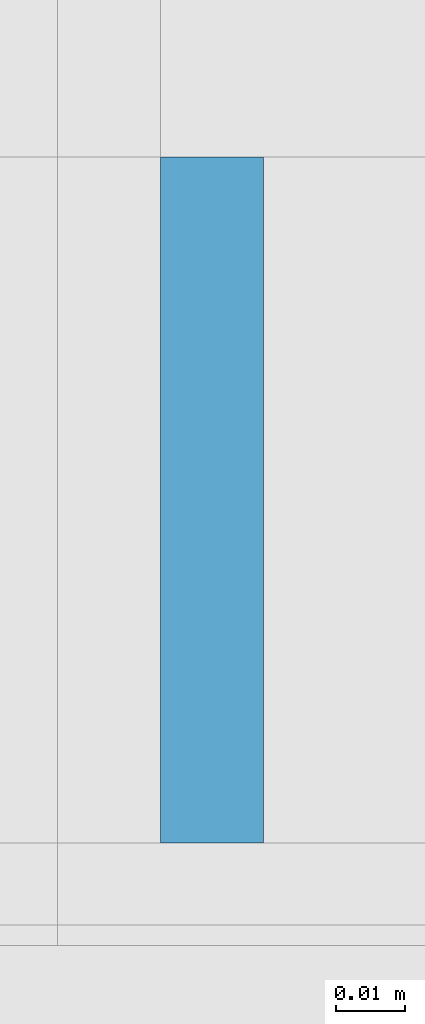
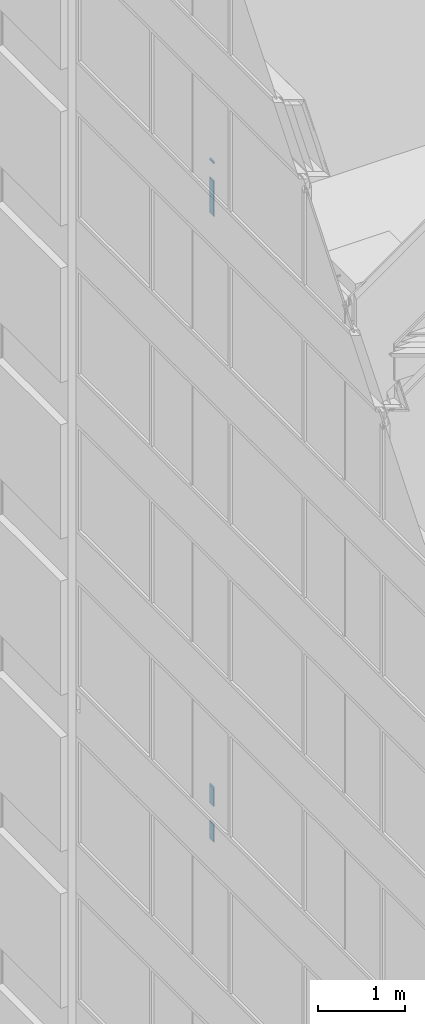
# One storey, part 209 of 583: 4 building element parts, 2 elements without a shape of their own.
"""IFC2X3 building model written with IfcOpenShell, lengths in metres."""

from ifc_helpers import new_model, entity, si_unit, converted_unit, derived_unit, money_unit, direction, frame, origin_with_axes, place, context, subcontext, project, spatial, polyline, outline, extrude, material, type_object, element, aggregate, save


model = new_model("IFC2X3")

# Units and contexts
model_context = context("Model", 3, precision=1e-05, world=origin_with_axes(), true_north=direction((0.0, 1.0)))
body_context = subcontext(model_context, "Body", "Model", "MODEL_VIEW", scale=1.0)
ifc_project = project(units=[si_unit("LENGTHUNIT", "METRE"), si_unit("AREAUNIT", "SQUARE_METRE"), si_unit("VOLUMEUNIT", "CUBIC_METRE"), si_unit("ABSORBEDDOSEUNIT", "GRAY"), si_unit("AMOUNTOFSUBSTANCEUNIT", "MOLE"), si_unit("DOSEEQUIVALENTUNIT", "SIEVERT"), si_unit("ELECTRICCAPACITANCEUNIT", "FARAD"), si_unit("ELECTRICCHARGEUNIT", "COULOMB"), si_unit("ELECTRICCONDUCTANCEUNIT", "SIEMENS"), si_unit("ELECTRICCURRENTUNIT", "AMPERE"), si_unit("ELECTRICRESISTANCEUNIT", "OHM"), si_unit("ELECTRICVOLTAGEUNIT", "VOLT"), si_unit("ENERGYUNIT", "JOULE"), si_unit("FORCEUNIT", "NEWTON"), si_unit("FREQUENCYUNIT", "HERTZ"), si_unit("ILLUMINANCEUNIT", "LUX"), si_unit("INDUCTANCEUNIT", "HENRY"), si_unit("LUMINOUSFLUXUNIT", "LUMEN"), si_unit("LUMINOUSINTENSITYUNIT", "CANDELA"), si_unit("MAGNETICFLUXDENSITYUNIT", "TESLA"), si_unit("MAGNETICFLUXUNIT", "WEBER"), si_unit("MASSUNIT", "GRAM"), converted_unit("PLANEANGLEUNIT", "degree", entity("IfcReal", 0.0174532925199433), si_unit("PLANEANGLEUNIT", "RADIAN"), dimensions=[0, 0, 0, 0, 0, 0, 0]), si_unit("POWERUNIT", "WATT"), si_unit("PRESSUREUNIT", "PASCAL"), si_unit("RADIOACTIVITYUNIT", "BECQUEREL"), si_unit("SOLIDANGLEUNIT", "STERADIAN"), si_unit("THERMODYNAMICTEMPERATUREUNIT", "KELVIN"), si_unit("TIMEUNIT", "SECOND"), derived_unit("ACCELERATIONUNIT", [(si_unit("LENGTHUNIT", "METRE"), 1), (si_unit("TIMEUNIT", "SECOND"), -2)]), derived_unit("ANGULARVELOCITYUNIT", [(converted_unit("PLANEANGLEUNIT", "degree", entity("IfcReal", 0.0174532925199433), si_unit("PLANEANGLEUNIT", "RADIAN"), dimensions=[0, 0, 0, 0, 0, 0, 0]), 1), (si_unit("TIMEUNIT", "SECOND"), -1)]), derived_unit("CURVATUREUNIT", [(converted_unit("PLANEANGLEUNIT", "degree", entity("IfcReal", 0.0174532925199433), si_unit("PLANEANGLEUNIT", "RADIAN"), dimensions=[0, 0, 0, 0, 0, 0, 0]), 1), (si_unit("LENGTHUNIT", "METRE"), -1)]), derived_unit("DYNAMICVISCOSITYUNIT", [(si_unit("PRESSUREUNIT", "PASCAL"), 1), (si_unit("TIMEUNIT", "SECOND"), 1)]), derived_unit("HEATFLUXDENSITYUNIT", [(si_unit("POWERUNIT", "WATT"), 1), (si_unit("LENGTHUNIT", "METRE"), -2)]), derived_unit("HEATINGVALUEUNIT", [(si_unit("ENERGYUNIT", "JOULE"), 1), (si_unit("MASSUNIT", "GRAM"), -1)]), derived_unit("INTEGERCOUNTRATEUNIT", [(si_unit("TIMEUNIT", "SECOND"), -1)]), derived_unit("IONCONCENTRATIONUNIT", [(si_unit("MASSUNIT", "GRAM"), 1), (si_unit("VOLUMEUNIT", "CUBIC_METRE"), -1)]), derived_unit("ISOTHERMALMOISTURECAPACITYUNIT", [(si_unit("VOLUMEUNIT", "CUBIC_METRE"), 1), (si_unit("MASSUNIT", "GRAM"), -1)]), derived_unit("KINEMATICVISCOSITYUNIT", [(si_unit("AREAUNIT", "SQUARE_METRE"), 1), (si_unit("TIMEUNIT", "SECOND"), -1)]), derived_unit("LINEARFORCEUNIT", [(si_unit("FORCEUNIT", "NEWTON"), 1), (si_unit("LENGTHUNIT", "METRE"), -1)]), derived_unit("LINEARMOMENTUNIT", [(si_unit("FORCEUNIT", "NEWTON"), 1), (si_unit("LENGTHUNIT", "METRE"), -1)]), derived_unit("LINEARSTIFFNESSUNIT", [(si_unit("FORCEUNIT", "NEWTON"), 1), (si_unit("LENGTHUNIT", "METRE"), -1)]), derived_unit("LINEARVELOCITYUNIT", [(si_unit("LENGTHUNIT", "METRE"), 1), (si_unit("TIMEUNIT", "SECOND"), -1)]), derived_unit("LUMINOUSINTENSITYDISTRIBUTIONUNIT", [(si_unit("LUMINOUSINTENSITYUNIT", "CANDELA"), 1), (si_unit("LUMINOUSFLUXUNIT", "LUMEN"), -1)]), derived_unit("MASSDENSITYUNIT", [(si_unit("MASSUNIT", "GRAM"), 1), (si_unit("VOLUMEUNIT", "CUBIC_METRE"), -1)]), derived_unit("MASSFLOWRATEUNIT", [(si_unit("MASSUNIT", "GRAM"), 1), (si_unit("TIMEUNIT", "SECOND"), -1)]), derived_unit("MASSPERLENGTHUNIT", [(si_unit("MASSUNIT", "GRAM"), 1), (si_unit("LENGTHUNIT", "METRE"), -1)]), derived_unit("MODULUSOFELASTICITYUNIT", [(si_unit("FORCEUNIT", "NEWTON"), 1), (si_unit("AREAUNIT", "SQUARE_METRE"), -1)]), derived_unit("MODULUSOFLINEARSUBGRADEREACTIONUNIT", [(si_unit("FORCEUNIT", "NEWTON"), 1), (si_unit("LENGTHUNIT", "METRE"), -2)]), derived_unit("MODULUSOFROTATIONALSUBGRADEREACTIONUNIT", [(si_unit("FORCEUNIT", "NEWTON"), 1), (si_unit("LENGTHUNIT", "METRE"), 1)]), derived_unit("MODULUSOFSUBGRADEREACTIONUNIT", [(si_unit("FORCEUNIT", "NEWTON"), 1), (si_unit("VOLUMEUNIT", "CUBIC_METRE"), -1)]), derived_unit("MOISTUREDIFFUSIVITYUNIT", [(si_unit("VOLUMEUNIT", "CUBIC_METRE"), 1), (si_unit("TIMEUNIT", "SECOND"), -1)]), derived_unit("MOLECULARWEIGHTUNIT", [(si_unit("MASSUNIT", "GRAM"), 1), (si_unit("AMOUNTOFSUBSTANCEUNIT", "MOLE"), -1)]), derived_unit("PLANARFORCEUNIT", [(si_unit("FORCEUNIT", "NEWTON"), 1), (si_unit("LENGTHUNIT", "METRE"), -2)]), derived_unit("ROTATIONALFREQUENCYUNIT", [(si_unit("TIMEUNIT", "SECOND"), -1)]), derived_unit("ROTATIONALMASSUNIT", [(si_unit("MASSUNIT", "GRAM"), 1), (si_unit("LENGTHUNIT", "METRE"), 2)]), derived_unit("ROTATIONALSTIFFNESSUNIT", [(si_unit("FORCEUNIT", "NEWTON"), 1), (si_unit("LENGTHUNIT", "METRE"), 1), (converted_unit("PLANEANGLEUNIT", "degree", entity("IfcReal", 0.0174532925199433), si_unit("PLANEANGLEUNIT", "RADIAN"), dimensions=[0, 0, 0, 0, 0, 0, 0]), -1)]), derived_unit("SECTIONAREAINTEGRALUNIT", [(si_unit("LENGTHUNIT", "METRE"), 5)]), derived_unit("SECTIONMODULUSUNIT", [(si_unit("LENGTHUNIT", "METRE"), 3)]), derived_unit("SHEARMODULUSUNIT", [(si_unit("FORCEUNIT", "NEWTON"), 1), (si_unit("AREAUNIT", "SQUARE_METRE"), -1)]), derived_unit("SOUNDPOWERUNIT", [(si_unit("ENERGYUNIT", "JOULE"), 1), (si_unit("TIMEUNIT", "SECOND"), -1)]), derived_unit("SPECIFICHEATCAPACITYUNIT", [(si_unit("FORCEUNIT", "NEWTON"), 1), (si_unit("MASSUNIT", "GRAM"), -1), (si_unit("THERMODYNAMICTEMPERATUREUNIT", "KELVIN"), -1)]), derived_unit("TEMPERATUREGRADIENTUNIT", [(si_unit("THERMODYNAMICTEMPERATUREUNIT", "KELVIN"), 1), (si_unit("LENGTHUNIT", "METRE"), -1)]), derived_unit("THERMALADMITTANCEUNIT", [(si_unit("POWERUNIT", "WATT"), 1), (si_unit("AREAUNIT", "SQUARE_METRE"), -1), (si_unit("THERMODYNAMICTEMPERATUREUNIT", "KELVIN"), -1)]), derived_unit("THERMALCONDUCTANCEUNIT", [(si_unit("POWERUNIT", "WATT"), 1), (si_unit("LENGTHUNIT", "METRE"), -1), (si_unit("THERMODYNAMICTEMPERATUREUNIT", "KELVIN"), -1)]), derived_unit("THERMALEXPANSIONCOEFFICIENTUNIT", [(si_unit("THERMODYNAMICTEMPERATUREUNIT", "KELVIN"), -1)]), derived_unit("THERMALRESISTANCEUNIT", [(si_unit("AREAUNIT", "SQUARE_METRE"), 1), (si_unit("POWERUNIT", "WATT"), -1)]), derived_unit("THERMALTRANSMITTANCEUNIT", [(si_unit("POWERUNIT", "WATT"), 1), (si_unit("AREAUNIT", "SQUARE_METRE"), -1), (si_unit("THERMODYNAMICTEMPERATUREUNIT", "KELVIN"), -1)]), derived_unit("TORQUEUNIT", [(si_unit("FORCEUNIT", "NEWTON"), 1), (si_unit("LENGTHUNIT", "METRE"), 1)]), derived_unit("VAPORPERMEABILITYUNIT", [(si_unit("MASSUNIT", "GRAM"), 1), (si_unit("TIMEUNIT", "SECOND"), -1)]), derived_unit("VOLUMETRICFLOWRATEUNIT", [(si_unit("VOLUMEUNIT", "CUBIC_METRE"), 1), (si_unit("TIMEUNIT", "SECOND"), -1)]), derived_unit("WARPINGCONSTANTUNIT", [(si_unit("LENGTHUNIT", "METRE"), 6)]), derived_unit("WARPINGMOMENTUNIT", [(si_unit("FORCEUNIT", "NEWTON"), 1), (si_unit("LENGTHUNIT", "METRE"), 2)]), money_unit("GBP")], contexts=[model_context])

# Site, building, storey
site_placement = place(None, origin_with_axes())
site = spatial("IfcSite", under=ifc_project, at=site_placement, Name="Site", CompositionType="ELEMENT")
building_placement = place(site_placement, origin_with_axes())
building = spatial("IfcBuilding", under=site, at=building_placement, Name="Building01", CompositionType="ELEMENT")
storey_placement = place(building_placement, frame((0.0, 0.0, 20.78), z_axis=(0.0, 0.0, 1.0), x_axis=(1.0, 0.0, 0.0)))
storey = spatial("IfcBuildingStorey", under=building, at=storey_placement, Name="RL", CompositionType="ELEMENT", Elevation=20.78)

# Wall, building element parts
wall_type = type_object("IfcWallType", Name="SHE_A-Walls_Type06f_ExternalWallInsulation_48+15mm", PredefinedType="NOTDEFINED")
wall_1_placement = place(storey_placement, frame((0.27, 12.13, 1.833124), z_axis=(0.0, 1.0, 0.0), x_axis=(0.0, 0.0, -1.0)))
wall_1 = element("IfcWall", 1, at=wall_1_placement, inside=storey, type_object=wall_type, Name="6F", ObjectType="SHE_A-Walls_Type06f_ExternalWallInsulation_48+15mm")
ifc_material = material(Name="A_BSUK_Walls_Timber")
placement_1 = place(wall_1_placement, origin_with_axes())
building_element_part_1 = element("IfcBuildingElementPart", 2, at=placement_1, material=ifc_material, Name="2", context=body_context, shape_type="SweptSolid", body=[
    extrude(outline(polyline([(-0.027, -0.063), (-0.042, -0.078), (-0.011876, -0.078), (-0.011876, -0.063), (-0.027, -0.063)])), frame((0.0, 0.0, 0.015), z_axis=(0.0, 0.0, 1.0), x_axis=(1.0, 0.0, 0.0)), (0.0, 0.0, 1.0), 0.1),
])
building_element_part_2 = element("IfcBuildingElementPart", 3, at=placement_1, material=ifc_material, Name="4", context=body_context, shape_type="SweptSolid", body=[
    extrude(outline(polyline([(0.723124, -0.063), (0.228124, -0.063), (0.228124, -0.078), (0.738124, -0.078), (0.723124, -0.063)])), frame((0.0, 0.0, 0.015), z_axis=(0.0, 0.0, 1.0), x_axis=(1.0, 0.0, 0.0)), (0.0, 0.0, 1.0), 0.1),
])
aggregate(wall_1, [building_element_part_1, building_element_part_2])

wall_2_placement = place(storey_placement, frame((0.27, 12.13, -6.926876), z_axis=(0.0, 1.0, 0.0), x_axis=(0.0, 0.0, -1.0)))
wall_2 = element("IfcWall", 4, at=wall_2_placement, inside=storey, type_object=wall_type, Name="6F", ObjectType="SHE_A-Walls_Type06f_ExternalWallInsulation_48+15mm")
placement_2 = place(wall_2_placement, origin_with_axes())
building_element_part_3 = element("IfcBuildingElementPart", 5, at=placement_2, material=ifc_material, Name="2", context=body_context, shape_type="SweptSolid", body=[
    extrude(outline(polyline([(-0.027, -0.063), (-0.042, -0.078), (0.225624, -0.078), (0.225624, -0.063), (-0.027, -0.063)])), frame((0.0, 0.0, 0.015), z_axis=(0.0, 0.0, 1.0), x_axis=(1.0, 0.0, 0.0)), (0.0, 0.0, 1.0), 0.1),
])
building_element_part_4 = element("IfcBuildingElementPart", 6, at=placement_2, material=ifc_material, Name="4", context=body_context, shape_type="SweptSolid", body=[
    extrude(outline(polyline([(0.723124, -0.063), (0.480624, -0.063), (0.480624, -0.078), (0.738124, -0.078), (0.723124, -0.063)])), frame((0.0, 0.0, 0.015), z_axis=(0.0, 0.0, 1.0), x_axis=(1.0, 0.0, 0.0)), (0.0, 0.0, 1.0), 0.1),
])
aggregate(wall_2, [building_element_part_3, building_element_part_4])

save(model, "model.ifc")
